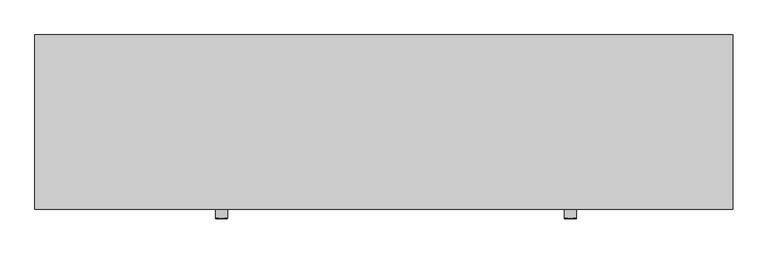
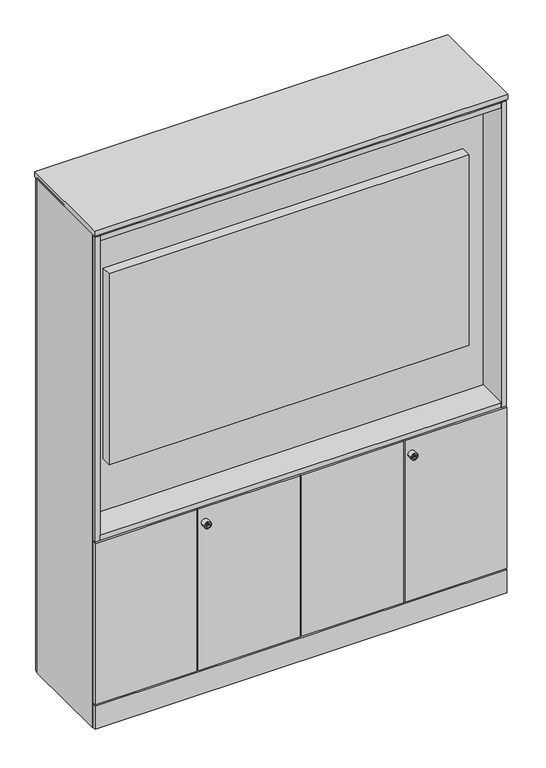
"""IFC4 building model written with IfcOpenShell, lengths in millimetres: furniture geometry, Furniture_Storage_Spacestor_SignatureStoragewall : Mediastor Double."""

from ifc_helpers import new_model, si_unit, point, frame, origin, origin_with_axes, place, context, project, spatial, polyline, circle_curve, ellipse_curve, trimmed, outline, extrude, source, transform, mapped, element, save
from ifc_brep_helpers import plane_surface, cylinder_surface, revolved_surface, advanced_brep


def furniture_93f1a666(model_context):
    return source(origin(), model_context, "Body", "SolidModel", [
        extrude(outline(polyline([(1996.5, 459.0), (3.5, 459.0), (3.5, 477.0), (1996.5, 477.0), (1996.5, 459.0)])), origin_with_axes(), (0.0, 0.0, 1.0), 2518.0),
        extrude(outline(polyline([(1996.5, -18.0), (3.5, -18.0), (3.5, 0.0), (1996.5, 0.0), (1996.5, -18.0)])), origin_with_axes(), (0.0, 0.0, 1.0), 118.0),
        extrude(outline(polyline([(2000.0, -20.5), (0.0, -20.5), (0.0, 479.5), (2000.0, 479.5), (2000.0, -20.5)])), frame((0.0, 0.0, 2525.0), z_axis=(0.0, 0.0, 1.0), x_axis=(1.0, 0.0, 0.0)), (0.0, 0.0, 1.0), 25.5),
        extrude(outline(polyline([(2000.0, 0.0), (1989.0, 0.0), (1989.0, 459.0), (2000.0, 459.0), (2000.0, 0.0)])), origin_with_axes(), (0.0, 0.0, 1.0), 2532.5),
        extrude(outline(polyline([(11.0, 0.0), (0.0, 0.0), (0.0, 459.0), (11.0, 459.0), (11.0, 0.0)])), origin_with_axes(), (0.0, 0.0, 1.0), 2532.5),
        extrude(outline(polyline([(1003.5, -18.0), (1003.5, 0.0), (1496.5, 0.0), (1496.5, -18.0), (1003.5, -18.0)])), frame((0.0, 0.0, 125.0), z_axis=(0.0, 0.0, 1.0), x_axis=(1.0, 0.0, 0.0)), (0.0, 0.0, 1.0), 825.0),
        extrude(outline(polyline([(1996.5, -18.0), (1503.5, -18.0), (1503.5, 0.0), (1996.5, 0.0), (1996.5, -18.0)])), frame((0.0, 0.0, 125.0), z_axis=(0.0, 0.0, 1.0), x_axis=(1.0, 0.0, 0.0)), (0.0, 0.0, 1.0), 825.0),
        advanced_brep(
        [(1552.0, -45.3116344, 875.0), (1518.0, -45.3116344, 875.0), (1518.0, -18.0, 875.0), (1552.0, -18.0, 875.0), (1535.0, -18.0, 875.0), (1543.9747319, -46.3150077, 875.0), (1526.0252681, -46.3150077, 875.0), (1519.0033734, -46.3150077, 875.0), (1550.9966266, -46.3150077, 875.0), (1543.9747319, -47.4703043, 875.0), (1526.0252681, -47.4703043, 875.0), (1539.8245152, -47.4703043, 875.0), (1539.8245152, -47.4703043, 873.6366562), (1530.1754848, -47.4703043, 873.6366562), (1530.1754848, -47.4703043, 875.0), (1530.1754848, -47.4703043, 876.3633438), (1539.8245152, -47.4703043, 876.3633438), (1530.1754848, -27.8604291, 873.6366562), (1539.8245152, -27.8604291, 873.6366562), (1539.8245152, -27.8604291, 876.3633438), (1530.1754848, -27.8604291, 876.3633438)],
        [
            (0, 1, circle_curve(frame((1535.0, -45.3116344, 875.0), z_axis=(0.0, 1.0, 0.0), x_axis=(-1.0, 0.0, 0.0)), 17.0)),
            (1, 2),
            (2, 3, circle_curve(frame((1535.0, -18.0, 875.0), z_axis=(0.0, -1.0, 0.0), x_axis=(-1.0, 0.0, 0.0)), 17.0)),
            (3, 0),
            (1, 0, circle_curve(frame((1535.0, -45.3116344, 875.0), z_axis=(0.0, 1.0, 0.0), x_axis=(-1.0, 0.0, 0.0)), 17.0)),
            (3, 2, circle_curve(frame((1535.0, -18.0, 875.0), z_axis=(0.0, -1.0, 0.0), x_axis=(-1.0, 0.0, 0.0)), 17.0)),
            (2, 4),
            (4, 3),
            (5, 6, circle_curve(frame((1535.0, -46.3150077, 875.0), z_axis=(0.0, 1.0, 0.0), x_axis=(-1.0, 0.0, 0.0)), 8.9747319)),
            (6, 7),
            (7, 8, circle_curve(frame((1535.0, -46.3150077, 875.0), z_axis=(0.0, -1.0, 0.0), x_axis=(-1.0, 0.0, 0.0)), 15.9966266)),
            (8, 5),
            (6, 5, circle_curve(frame((1535.0, -46.3150077, 875.0), z_axis=(0.0, 1.0, 0.0), x_axis=(-1.0, 0.0, 0.0)), 8.9747319)),
            (8, 7, circle_curve(frame((1535.0, -46.3150077, 875.0), z_axis=(0.0, -1.0, 0.0), x_axis=(-1.0, 0.0, 0.0)), 15.9966266)),
            (0, 8, circle_curve(frame((1550.9966266, -45.3116344, 875.0), z_axis=(0.0, 0.0, -1.0), x_axis=(1.0, 0.0, 0.0)), 1.0033734)),
            (7, 1, circle_curve(frame((1519.0033734, -45.3116344, 875.0), z_axis=(0.0, 0.0, -1.0), x_axis=(-1.0, 0.0, 0.0)), 1.0033734)),
            (5, 9),
            (9, 10, circle_curve(frame((1535.0, -47.4703043, 875.0), z_axis=(0.0, 1.0, 0.0), x_axis=(-1.0, 0.0, 0.0)), 8.9747319)),
            (10, 6),
            (10, 9, circle_curve(frame((1535.0, -47.4703043, 875.0), z_axis=(0.0, 1.0, 0.0), x_axis=(-1.0, 0.0, 0.0)), 8.9747319)),
            (9, 11),
            (11, 12),
            (12, 13),
            (13, 14),
            (14, 10),
            (14, 15),
            (15, 16),
            (16, 11),
            (17, 18),
            (18, 19),
            (19, 20),
            (20, 17),
            (17, 13),
            (12, 18),
            (16, 19),
            (15, 20),
        ],
        [
            cylinder_surface(frame((1535.0, -2627.0581012, 875.0), z_axis=(0.0, -1.0, 0.0), x_axis=(-1.0, 0.0, 0.0)), 17.0),
            plane_surface(frame((1535.0, -18.0, 875.0), z_axis=(0.0, 1.0, 0.0), x_axis=(-1.0, 0.0, 0.0))),
            plane_surface(frame((1535.0, -46.3150077, 875.0), z_axis=(0.0, -1.0, 0.0), x_axis=(-1.0, 0.0, 0.0))),
            revolved_surface(trimmed(ellipse_curve(frame((1519.0033734, -45.3116344, 875.0), z_axis=(0.0, 0.0, 1.0), x_axis=(-1.0, 0.0, 0.0)), 1.0033734, 1.0033734), [point((1518.0, -45.3116344, 875.0))], [point((1519.0033734, -46.3150077, 875.0))], True, "CARTESIAN"), (1535.0, -2627.0581012, 875.0), (0.0, -1.0, 0.0)),
            cylinder_surface(frame((1535.0, -2627.0581012, 875.0), z_axis=(0.0, -1.0, 0.0), x_axis=(-1.0, 0.0, 0.0)), 8.9747319),
            plane_surface(frame((1535.0, -47.4703043, 875.0), z_axis=(0.0, -1.0, 0.0), x_axis=(-1.0, 0.0, 0.0))),
            plane_surface(frame((1539.4565249, -27.8604291, 873.6366562), z_axis=(0.0, -1.0, 0.0), x_axis=(-1.0, 0.0, 0.0))),
            plane_surface(frame((1530.1754848, -49.2046383, 873.6366562), z_axis=(0.0, 0.0, 1.0), x_axis=(0.0, 1.0, 0.0))),
            plane_surface(frame((1539.8245152, -49.2046383, 873.6366562), z_axis=(-1.0, 0.0, 0.0), x_axis=(0.0, 1.0, 0.0))),
            plane_surface(frame((1539.8245152, -49.2046383, 876.3633438), z_axis=(0.0, 0.0, -1.0), x_axis=(0.0, 1.0, 0.0))),
            plane_surface(frame((1530.1754848, -49.2046383, 876.3633438), z_axis=(1.0, 0.0, 0.0), x_axis=(0.0, 1.0, 0.0))),
        ],
        [
            (0, [[1, 2, 3, 4]]),
            (0, [[-2, 5, -4, 6]]),
            (1, [[-3, 7, 8]]),
            (1, [[-6, -8, -7]]),
            (2, [[9, 10, 11, 12]]),
            (2, [[-10, 13, -12, 14]]),
            (3, [[-1, 15, -11, 16]]),
            (3, [[-5, -16, -14, -15]]),
            (4, [[-9, 17, 18, 19]]),
            (4, [[-13, -19, 20, -17]]),
            (5, [[-18, 21, 22, 23, 24, 25]]),
            (5, [[-20, -25, 26, 27, 28, -21]]),
            (6, [[29, 30, 31, 32]]),
            (7, [[-29, 33, -23, 34]]),
            (8, [[-30, -34, -22, -28, 35]]),
            (9, [[-31, -35, -27, 36]]),
            (10, [[-32, -36, -26, -24, -33]]),
        ],
    ),
        extrude(outline(polyline([(1989.0, 0.0), (11.0, 0.0), (11.0, 459.0), (1989.0, 459.0), (1989.0, 0.0)])), frame((0.0, 0.0, 110.5), z_axis=(0.0, 0.0, 1.0), x_axis=(1.0, 0.0, 0.0)), (0.0, 0.0, 1.0), 22.0),
        extrude(outline(polyline([(1989.0, 0.0), (11.0, 0.0), (11.0, 459.0), (1989.0, 459.0), (1989.0, 0.0)])), frame((0.0, 0.0, 2510.0), z_axis=(0.0, 0.0, 1.0), x_axis=(1.0, 0.0, 0.0)), (0.0, 0.0, 1.0), 22.0),
        extrude(outline(polyline([(1989.0, 0.0), (11.0, 0.0), (11.0, 459.0), (1989.0, 459.0), (1989.0, 0.0)])), frame((0.0, 0.0, 942.5), z_axis=(0.0, 0.0, 1.0), x_axis=(1.0, 0.0, 0.0)), (0.0, 0.0, 1.0), 22.0),
        extrude(outline(polyline([(1870.5, 82.0), (129.5, 82.0), (129.5, 132.0), (1870.5, 132.0), (1870.5, 82.0)])), frame((0.0, 0.0, 1249.02), z_axis=(0.0, 0.0, 1.0), x_axis=(1.0, 0.0, 0.0)), (0.0, 0.0, 1.0), 974.96),
        extrude(outline(polyline([(1970.5, -18.0), (29.5, -18.0), (29.5, 132.0), (1970.5, 132.0), (1970.5, -18.0)])), frame((0.0, 0.0, 957.5), z_axis=(0.0, 0.0, 1.0), x_axis=(1.0, 0.0, 0.0)), (0.0, 0.0, 1.0), 25.0),
        extrude(outline(polyline([(29.5, -18.0), (4.5, -18.0), (4.5, 132.0), (29.5, 132.0), (29.5, -18.0)])), frame((0.0, 0.0, 957.0), z_axis=(0.0, 0.0, 1.0), x_axis=(1.0, 0.0, 0.0)), (0.0, 0.0, 1.0), 1559.0),
        extrude(outline(polyline([(1995.5, -18.0), (1970.5, -18.0), (1970.5, 132.0), (1995.5, 132.0), (1995.5, -18.0)])), frame((0.0, 0.0, 957.0), z_axis=(0.0, 0.0, 1.0), x_axis=(1.0, 0.0, 0.0)), (0.0, 0.0, 1.0), 1559.0),
        extrude(outline(polyline([(1995.5, 132.0), (4.5, 132.0), (4.5, 150.0), (1995.5, 150.0), (1995.5, 132.0)])), frame((0.0, 0.0, 957.0), z_axis=(0.0, 0.0, 1.0), x_axis=(1.0, 0.0, 0.0)), (0.0, 0.0, 1.0), 1559.0),
        extrude(outline(polyline([(1970.5, -18.0), (29.5, -18.0), (29.5, 132.0), (1970.5, 132.0), (1970.5, -18.0)])), frame((0.0, 0.0, 2490.5), z_axis=(0.0, 0.0, 1.0), x_axis=(1.0, 0.0, 0.0)), (0.0, 0.0, 1.0), 25.0),
        extrude(outline(polyline([(3.5, -18.0), (3.5, 0.0), (496.5, 0.0), (496.5, -18.0), (3.5, -18.0)])), frame((0.0, 0.0, 125.0), z_axis=(0.0, 0.0, 1.0), x_axis=(1.0, 0.0, 0.0)), (0.0, 0.0, 1.0), 825.0),
        extrude(outline(polyline([(996.5, -18.0), (503.5, -18.0), (503.5, 0.0), (996.5, 0.0), (996.5, -18.0)])), frame((0.0, 0.0, 125.0), z_axis=(0.0, 0.0, 1.0), x_axis=(1.0, 0.0, 0.0)), (0.0, 0.0, 1.0), 825.0),
        advanced_brep(
        [(552.0, -45.3116344, 875.0), (518.0, -45.3116344, 875.0), (518.0, -18.0, 875.0), (552.0, -18.0, 875.0), (535.0, -18.0, 875.0), (543.9747319, -46.3150077, 875.0), (526.0252681, -46.3150077, 875.0), (519.0033734, -46.3150077, 875.0), (550.9966266, -46.3150077, 875.0), (543.9747319, -47.4703043, 875.0), (526.0252681, -47.4703043, 875.0), (539.8245152, -47.4703043, 875.0), (539.8245152, -47.4703043, 873.6366562), (530.1754848, -47.4703043, 873.6366562), (530.1754848, -47.4703043, 875.0), (530.1754848, -47.4703043, 876.3633438), (539.8245152, -47.4703043, 876.3633438), (530.1754848, -27.8604291, 873.6366562), (539.8245152, -27.8604291, 873.6366562), (539.8245152, -27.8604291, 876.3633438), (530.1754848, -27.8604291, 876.3633438)],
        [
            (0, 1, circle_curve(frame((535.0, -45.3116344, 875.0), z_axis=(0.0, 1.0, 0.0), x_axis=(-1.0, 0.0, 0.0)), 17.0)),
            (1, 2),
            (2, 3, circle_curve(frame((535.0, -18.0, 875.0), z_axis=(0.0, -1.0, 0.0), x_axis=(-1.0, 0.0, 0.0)), 17.0)),
            (3, 0),
            (1, 0, circle_curve(frame((535.0, -45.3116344, 875.0), z_axis=(0.0, 1.0, 0.0), x_axis=(-1.0, 0.0, 0.0)), 17.0)),
            (3, 2, circle_curve(frame((535.0, -18.0, 875.0), z_axis=(0.0, -1.0, 0.0), x_axis=(-1.0, 0.0, 0.0)), 17.0)),
            (2, 4),
            (4, 3),
            (5, 6, circle_curve(frame((535.0, -46.3150077, 875.0), z_axis=(0.0, 1.0, 0.0), x_axis=(-1.0, 0.0, 0.0)), 8.9747319)),
            (6, 7),
            (7, 8, circle_curve(frame((535.0, -46.3150077, 875.0), z_axis=(0.0, -1.0, 0.0), x_axis=(-1.0, 0.0, 0.0)), 15.9966266)),
            (8, 5),
            (6, 5, circle_curve(frame((535.0, -46.3150077, 875.0), z_axis=(0.0, 1.0, 0.0), x_axis=(-1.0, 0.0, 0.0)), 8.9747319)),
            (8, 7, circle_curve(frame((535.0, -46.3150077, 875.0), z_axis=(0.0, -1.0, 0.0), x_axis=(-1.0, 0.0, 0.0)), 15.9966266)),
            (0, 8, circle_curve(frame((550.9966266, -45.3116344, 875.0), z_axis=(0.0, 0.0, -1.0), x_axis=(1.0, 0.0, 0.0)), 1.0033734)),
            (7, 1, circle_curve(frame((519.0033734, -45.3116344, 875.0), z_axis=(0.0, 0.0, -1.0), x_axis=(-1.0, 0.0, 0.0)), 1.0033734)),
            (5, 9),
            (9, 10, circle_curve(frame((535.0, -47.4703043, 875.0), z_axis=(0.0, 1.0, 0.0), x_axis=(-1.0, 0.0, 0.0)), 8.9747319)),
            (10, 6),
            (10, 9, circle_curve(frame((535.0, -47.4703043, 875.0), z_axis=(0.0, 1.0, 0.0), x_axis=(-1.0, 0.0, 0.0)), 8.9747319)),
            (9, 11),
            (11, 12),
            (12, 13),
            (13, 14),
            (14, 10),
            (14, 15),
            (15, 16),
            (16, 11),
            (17, 18),
            (18, 19),
            (19, 20),
            (20, 17),
            (17, 13),
            (12, 18),
            (16, 19),
            (15, 20),
        ],
        [
            cylinder_surface(frame((535.0, -2627.0581012, 875.0), z_axis=(0.0, -1.0, 0.0), x_axis=(-1.0, 0.0, 0.0)), 17.0),
            plane_surface(frame((535.0, -18.0, 875.0), z_axis=(0.0, 1.0, 0.0), x_axis=(-1.0, 0.0, 0.0))),
            plane_surface(frame((535.0, -46.3150077, 875.0), z_axis=(0.0, -1.0, 0.0), x_axis=(-1.0, 0.0, 0.0))),
            revolved_surface(trimmed(ellipse_curve(frame((519.0033734, -45.3116344, 875.0), z_axis=(0.0, 0.0, 1.0), x_axis=(-1.0, 0.0, 0.0)), 1.0033734, 1.0033734), [point((518.0, -45.3116344, 875.0))], [point((519.0033734, -46.3150077, 875.0))], True, "CARTESIAN"), (535.0, -2627.0581012, 875.0), (0.0, -1.0, 0.0)),
            cylinder_surface(frame((535.0, -2627.0581012, 875.0), z_axis=(0.0, -1.0, 0.0), x_axis=(-1.0, 0.0, 0.0)), 8.9747319),
            plane_surface(frame((535.0, -47.4703043, 875.0), z_axis=(0.0, -1.0, 0.0), x_axis=(-1.0, 0.0, 0.0))),
            plane_surface(frame((539.4565249, -27.8604291, 873.6366562), z_axis=(0.0, -1.0, 0.0), x_axis=(-1.0, 0.0, 0.0))),
            plane_surface(frame((530.1754848, -49.2046383, 873.6366562), z_axis=(0.0, 0.0, 1.0), x_axis=(0.0, 1.0, 0.0))),
            plane_surface(frame((539.8245152, -49.2046383, 873.6366562), z_axis=(-1.0, 0.0, 0.0), x_axis=(0.0, 1.0, 0.0))),
            plane_surface(frame((539.8245152, -49.2046383, 876.3633438), z_axis=(0.0, 0.0, -1.0), x_axis=(0.0, 1.0, 0.0))),
            plane_surface(frame((530.1754848, -49.2046383, 876.3633438), z_axis=(1.0, 0.0, 0.0), x_axis=(0.0, 1.0, 0.0))),
        ],
        [
            (0, [[1, 2, 3, 4]]),
            (0, [[-2, 5, -4, 6]]),
            (1, [[-3, 7, 8]]),
            (1, [[-6, -8, -7]]),
            (2, [[9, 10, 11, 12]]),
            (2, [[-10, 13, -12, 14]]),
            (3, [[-1, 15, -11, 16]]),
            (3, [[-5, -16, -14, -15]]),
            (4, [[-9, 17, 18, 19]]),
            (4, [[-13, -19, 20, -17]]),
            (5, [[-18, 21, 22, 23, 24, 25]]),
            (5, [[-20, -25, 26, 27, 28, -21]]),
            (6, [[29, 30, 31, 32]]),
            (7, [[-29, 33, -23, 34]]),
            (8, [[-30, -34, -22, -28, 35]]),
            (9, [[-31, -35, -27, 36]]),
            (10, [[-32, -36, -26, -24, -33]]),
        ],
    ),
    ])


if __name__ == "__main__":
    model = new_model("IFC4")
    model_context = context("Model", 3, world=origin())
    ifc_project = project(units=[si_unit("LENGTHUNIT", "METRE", prefix="MILLI")], contexts=[model_context])
    site = spatial("IfcSite", under=ifc_project)
    building = spatial("IfcBuilding", under=site)
    placement = place(None, origin())
    furniture_shape = furniture_93f1a666(model_context)
    element("IfcFurniture", 1, ObjectType="Furniture_Storage_Spacestor_SignatureStoragewall : Mediastor Double", at=placement, inside=building, context=model_context, shape_type="MappedRepresentation", body=[
        mapped(furniture_shape, transform((0.0, 0.0, 0.0), x_axis=(1.0, 0.0, 0.0), y_axis=(0.0, 1.0, 0.0), z_axis=(0.0, 0.0, 1.0))),
    ])
    save(model, "model.ifc")
